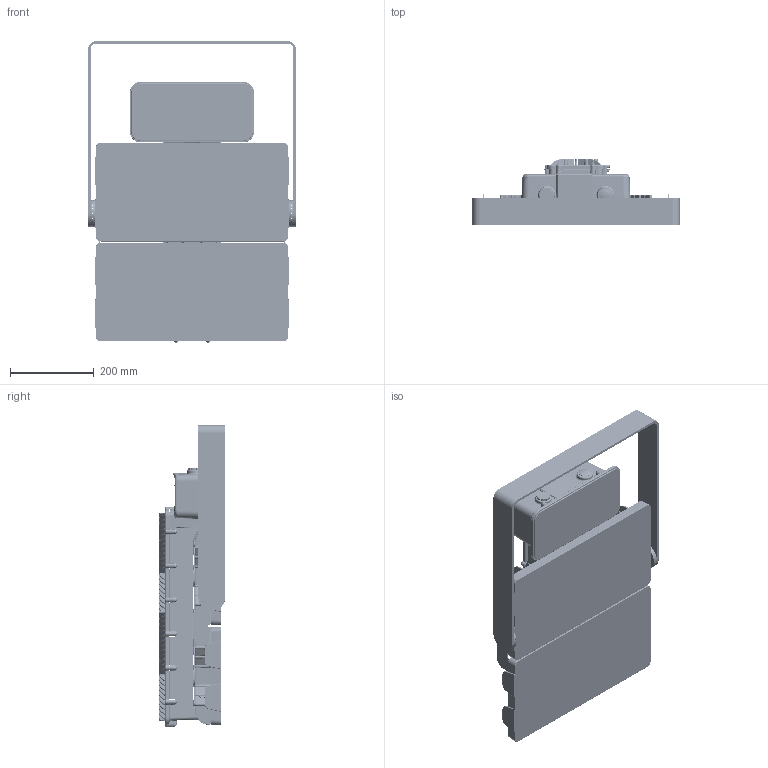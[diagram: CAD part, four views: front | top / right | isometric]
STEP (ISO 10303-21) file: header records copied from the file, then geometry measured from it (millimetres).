
FILE_DESCRIPTION((''),'2;1');
FILE_NAME('F2_EU_NXXXX_DJ_FNXXN_SW','2021-04-15T13:11:57',('gatsonnb'),(''),'CREO PARAMETRIC BY PTC INC, 2019080','CREO PARAMETRIC BY PTC INC, 2019080','');
FILE_SCHEMA(('CONFIG_CONTROL_DESIGN'));
Products named in the file (1): F2_EU_NXXXX_DJ_FNXXN_SW
Bounding box: 494.59 x 157.99 x 719.39 mm (x, y, z)
Surface area: 2106604 mm2 (no closed solid volume)
Topology: 0 solids, 174 shells, 16541 faces, 44094 edges, 26206 vertices
Faces by surface type: bspline 6778, cylinder 4452, plane 2722, cone 1368, torus 1107, sphere 114
Entity records: 860636 total; most frequent: CARTESIAN_POINT 522246, ORIENTED_EDGE 76161, DIRECTION 55136, EDGE_CURVE 44094, VERTEX_POINT 26206, AXIS2_PLACEMENT_3D 21889, B_SPLINE_CURVE_WITH_KNOTS 20610, EDGE_LOOP 16541
